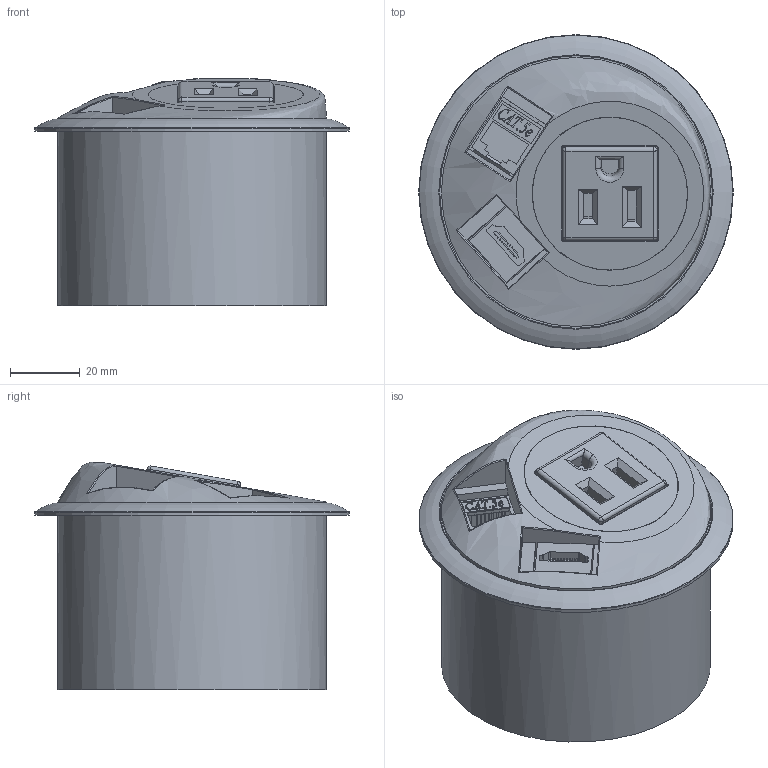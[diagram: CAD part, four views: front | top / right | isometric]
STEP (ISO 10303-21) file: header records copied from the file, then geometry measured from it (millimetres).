
FILE_DESCRIPTION((''),'2;1');
FILE_NAME('P:\Manufacturing\Autocad drawings\Inventor\blocks\pixel-block\PIXEL US1 1DATA 1HDMI.stp','2021-01-19T08:45:25',('ScottReyner'),(''),'Autodesk Inventor 2012','Autodesk Inventor 2012','');
FILE_SCHEMA(('AUTOMOTIVE_DESIGN { 1 0 10303 214 1 1 1 1 }'));
Length unit declared in the file: inch
Products named in the file (1): Part219
Bounding box: 90 x 90 x 65.23 mm (x, y, z)
Volume: 212465 mm3; surface area: 50342.4 mm2
Topology: 1 solids, 1 shells, 600 faces, 1671 edges, 1097 vertices
Faces by surface type: plane 427, cylinder 75, bspline 73, torus 12, sphere 8, cone 5
Full cylindrical faces by diameter (mm): 44.5 x1, 47.5 x1, 72 x1, 77 x2
Entity records: 20469 total; most frequent: CARTESIAN_POINT 5053, ORIENTED_EDGE 3308, DIRECTION 2709, EDGE_CURVE 1654, VECTOR 1291, LINE 1291, VERTEX_POINT 1095, AXIS2_PLACEMENT_3D 709
